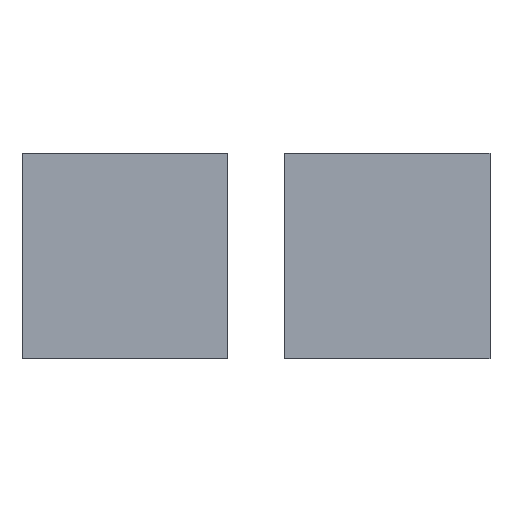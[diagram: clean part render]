
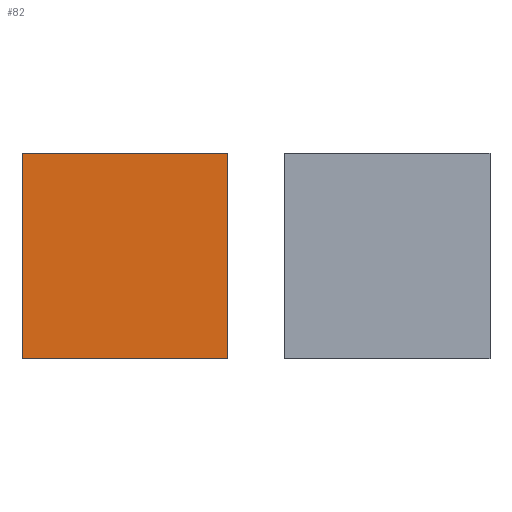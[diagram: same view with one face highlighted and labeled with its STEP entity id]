
A CAD part, top view. The second image highlights one B-rep face of the part: STEP entity #82.
In plain terms, the highlighted planar face has unit normal (0, 0, 1).
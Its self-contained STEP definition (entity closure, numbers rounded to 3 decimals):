
#19=DIRECTION('',(1.0,0.0,0.0));
#35=DIRECTION('',(-1.0,0.0,0.0));
#52=VECTOR('',#19,5.5);
#53=CARTESIAN_POINT('',(0.0,0.0,0.5));
#54=LINE('',#53,#52);
#55=VERTEX_POINT('',#53);
#56=CARTESIAN_POINT('',(5.5,0.0,0.5));
#57=VERTEX_POINT('',#56);
#58=EDGE_CURVE('',#55,#57,#54,.T.);
#59=ORIENTED_EDGE('',*,*,#58,.T.);
#60=DIRECTION('',(0.0,1.0,0.0));
#61=VECTOR('',#60,5.5);
#62=LINE('',#56,#61);
#63=CARTESIAN_POINT('',(5.5,5.5,0.5));
#64=VERTEX_POINT('',#63);
#65=EDGE_CURVE('',#57,#64,#62,.T.);
#66=ORIENTED_EDGE('',*,*,#65,.T.);
#67=VECTOR('',#35,5.5);
#68=LINE('',#63,#67);
#69=CARTESIAN_POINT('',(0.0,5.5,0.5));
#70=VERTEX_POINT('',#69);
#71=EDGE_CURVE('',#64,#70,#68,.T.);
#72=ORIENTED_EDGE('',*,*,#71,.T.);
#73=VECTOR('',#60,5.5);
#74=LINE('',#53,#73);
#75=EDGE_CURVE('',#55,#70,#74,.T.);
#76=ORIENTED_EDGE('',*,*,#75,.F.);
#77=EDGE_LOOP('',(#59,#66,#72,#76));
#78=FACE_OUTER_BOUND('',#77,.T.);
#79=DIRECTION('',(0.0,0.0,1.0));
#80=AXIS2_PLACEMENT_3D('',#53,#79,#19);
#81=PLANE('',#80);
#82=ADVANCED_FACE('',(#78),#81,.T.);
